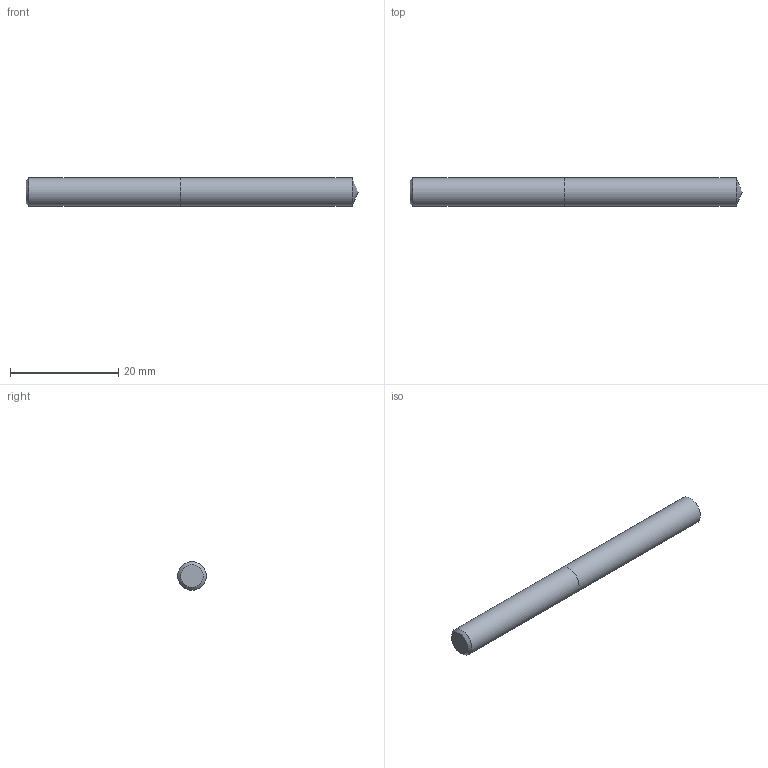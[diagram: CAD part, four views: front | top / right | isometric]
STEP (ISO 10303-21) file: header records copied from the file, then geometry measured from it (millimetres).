
FILE_DESCRIPTION (( 'STEP AP214' ), '1' );
FILE_NAME ('03-2346.STEP', '2022-06-03T06:31:35', ( 'USER' ), ( '' ), 'SwSTEP 2.0', 'SolidWorks 2018', '' );
FILE_SCHEMA (( 'AUTOMOTIVE_DESIGN' ));
Length unit declared in the file: inch
Products named in the file (1): 03-2346
Bounding box: 61.42 x 5.31 x 5.31 mm (x, y, z)
Volume: 1341.1 mm3; surface area: 1090.9 mm2
Topology: 2 solids, 2 shells, 7 faces, 11 edges, 7 vertices
Faces by surface type: plane 3, cylinder 2, cone 2
Full cylindrical faces by diameter (mm): 5.309 x2
Entity records: 214 total; most frequent: DIRECTION 26, CARTESIAN_POINT 18, AXIS2_PLACEMENT_3D 13, EDGE_LOOP 10, ORIENTED_EDGE 10, FACE_OUTER_BOUND 9, DIMENSIONAL_EXPONENTS 7, LENGTH_MEASURE_WITH_UNIT 7
